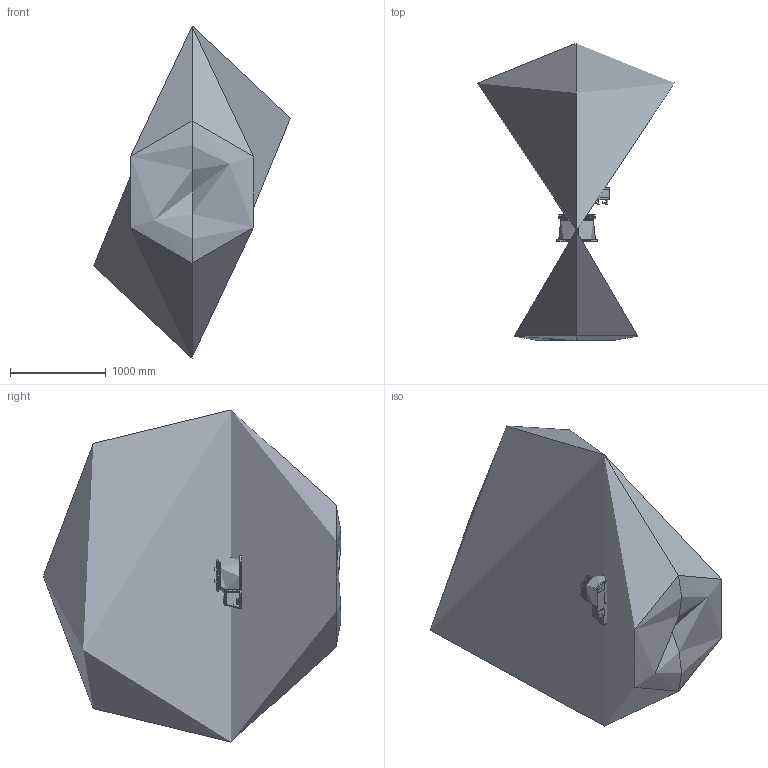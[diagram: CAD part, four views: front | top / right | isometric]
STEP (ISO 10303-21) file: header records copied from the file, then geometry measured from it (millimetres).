
FILE_DESCRIPTION (( 'STEP AP214' ), '1' );
FILE_NAME ('拓星际R1780-20-E 机器人外部模型.STEP', '2020-12-01T09:30:29', ( '' ), ( '' ), 'SwSTEP 2.0', 'SolidWorks 2016', '' );
FILE_SCHEMA (( 'AUTOMOTIVE_DESIGN' ));
Length unit declared in the file: millimetre
Products named in the file (9): 阹陎暱R1780-20-E--8_1; 阹陎暱R1780-20-E---1_1; 阹陎暱R1780-20-E- 6_1; 阹陎暱R1780-20-E-05-001_1; 阹陎暱R1780-20-E-2_1; 阹陎暱R1780-20-E--4_1; 阹陎暱R1780-20-E---3_1; 拓星际R1780-20-E 机器人外部模型; 阹陎暱R1780-20-E--7_1
Assembly tree (8 placements, depth 2):
  拓星际R1780-20-E 机器人外部模型
    阹陎暱R1780-20-E---1_1
    阹陎暱R1780-20-E-2_1
    阹陎暱R1780-20-E---3_1
    阹陎暱R1780-20-E--4_1
    阹陎暱R1780-20-E-05-001_1
    阹陎暱R1780-20-E- 6_1
    阹陎暱R1780-20-E--7_1
    阹陎暱R1780-20-E--8_1
Bounding box: 2051.98 x 3104.42 x 3467.6 mm (x, y, z)
Topology: 1 solids, 175 shells, 5385 faces, 16476 edges, 10984 vertices
Faces by surface type: cylinder 2067, bspline 1574, plane 1541, cone 203
Entity records: 351861 total; most frequent: CARTESIAN_POINT 203570, ORIENTED_EDGE 28422, DIRECTION 23186, EDGE_CURVE 16251, VERTEX_POINT 10981, AXIS2_PLACEMENT_3D 8440, LINE 6306, VECTOR 6306
